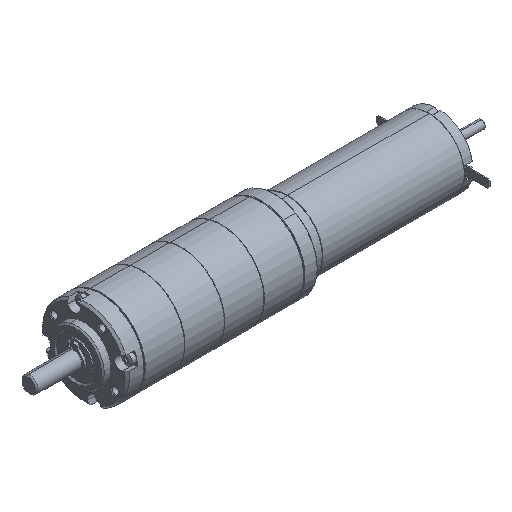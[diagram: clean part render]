
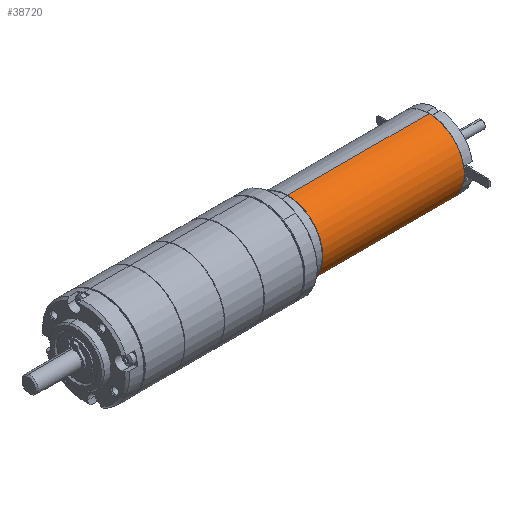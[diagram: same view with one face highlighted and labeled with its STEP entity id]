
A CAD part, isometric view. The second image highlights one B-rep face of the part: STEP entity #38720.
In plain terms, the highlighted cylindrical face has radius 13 mm (diameter 26 mm), a partial arc.
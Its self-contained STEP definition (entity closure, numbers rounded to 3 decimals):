
#435 = EDGE_CURVE ( 'NONE', #89103, #39974, #55974, .T. ) ;
#636 = DIRECTION ( 'NONE',  ( 1., 0., 0. ) ) ;
#3204 = EDGE_CURVE ( 'NONE', #82954, #89103, #13739, .T. ) ;
#3278 = ORIENTED_EDGE ( 'NONE', *, *, #12634, .F. ) ;
#4102 = AXIS2_PLACEMENT_3D ( 'NONE', #43320, #636, #50533 ) ;
#6487 = CARTESIAN_POINT ( 'NONE',  ( 30.9, 0., -13. ) ) ;
#12634 = EDGE_CURVE ( 'NONE', #45049, #39974, #15455, .T. ) ;
#13739 = LINE ( 'NONE', #61189, #34894 ) ;
#15455 = LINE ( 'NONE', #6487, #34422 ) ;
#15777 = EDGE_LOOP ( 'NONE', ( #3278, #52813, #57860, #40529 ) ) ;
#25619 = DIRECTION ( 'NONE',  ( -1., 0., 0. ) ) ;
#26402 = CYLINDRICAL_SURFACE ( 'NONE', #51463, 13. ) ;
#26536 = CARTESIAN_POINT ( 'NONE',  ( 57., 0., -13. ) ) ;
#32056 = DIRECTION ( 'NONE',  ( -1., 0., 0. ) ) ;
#34422 = VECTOR ( 'NONE', #49260, 1000. ) ;
#34894 = VECTOR ( 'NONE', #25619, 1000. ) ;
#38720 = ADVANCED_FACE ( 'NONE', ( #73326 ), #26402, .T. ) ;
#39974 = VERTEX_POINT ( 'NONE', #89622 ) ;
#40529 = ORIENTED_EDGE ( 'NONE', *, *, #435, .T. ) ;
#41769 = CARTESIAN_POINT ( 'NONE',  ( 4.8, 0., 13. ) ) ;
#43320 = CARTESIAN_POINT ( 'NONE',  ( 4.8, 0., 0. ) ) ;
#43417 = CARTESIAN_POINT ( 'NONE',  ( 30.9, 0., 0. ) ) ;
#45049 = VERTEX_POINT ( 'NONE', #26536 ) ;
#49260 = DIRECTION ( 'NONE',  ( -1., 0., 0. ) ) ;
#50533 = DIRECTION ( 'NONE',  ( 0., 0., 1. ) ) ;
#50922 = DIRECTION ( 'NONE',  ( 0., 0., 1. ) ) ;
#51463 = AXIS2_PLACEMENT_3D ( 'NONE', #43417, #57774, #50922 ) ;
#52813 = ORIENTED_EDGE ( 'NONE', *, *, #66611, .T. ) ;
#55974 = CIRCLE ( 'NONE', #4102, 13. ) ;
#57774 = DIRECTION ( 'NONE',  ( -1., 0., 0. ) ) ;
#57860 = ORIENTED_EDGE ( 'NONE', *, *, #3204, .T. ) ;
#61189 = CARTESIAN_POINT ( 'NONE',  ( 30.9, 0., 13. ) ) ;
#66611 = EDGE_CURVE ( 'NONE', #45049, #82954, #69713, .T. ) ;
#67168 = AXIS2_PLACEMENT_3D ( 'NONE', #74764, #32056, #81947 ) ;
#69713 = CIRCLE ( 'NONE', #67168, 13. ) ;
#73326 = FACE_OUTER_BOUND ( 'NONE', #15777, .T. ) ;
#74764 = CARTESIAN_POINT ( 'NONE',  ( 57., 0., 0. ) ) ;
#81024 = CARTESIAN_POINT ( 'NONE',  ( 57., 0., 13. ) ) ;
#81947 = DIRECTION ( 'NONE',  ( 0., 0., 1. ) ) ;
#82954 = VERTEX_POINT ( 'NONE', #81024 ) ;
#89103 = VERTEX_POINT ( 'NONE', #41769 ) ;
#89622 = CARTESIAN_POINT ( 'NONE',  ( 4.8, 0., -13. ) ) ;
